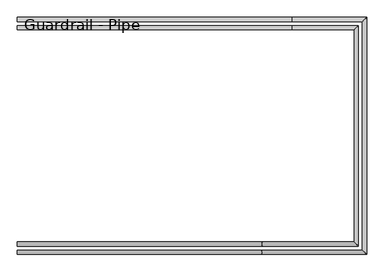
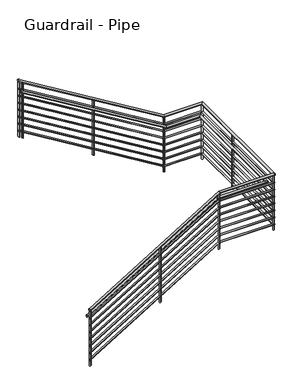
"""IFC4 building model written with IfcOpenShell, lengths in millimetres: railing geometry, Guardrail - Pipe."""

from ifc_helpers import new_model, si_unit, point, frame, frame_2d, origin, place, context, project, spatial, circle_curve, ellipse_curve, trimmed, segment, composite_curve, outline, extrude, source, transform, mapped, element, save
from ifc_brep_helpers import plane_surface, cylinder_surface, advanced_brep


def guardrail_pipe_ca991ecf(model_context):
    return source(origin(), model_context, "Body", "SolidModel", [
        advanced_brep(
        [(-2909.3516552, 8373.427236, 1214.5008594), (-2909.3516552, 8335.327236, 1214.5008594), (-668.811597, 8373.427236, 2577.75), (-668.811597, 8335.327236, 2577.75), (246.5983448, 8373.427236, 2577.75), (284.6983448, 8335.327236, 2577.75), (246.5983448, 10468.927236, 2577.75), (284.6983448, 10507.027236, 2577.75), (-400.0917134, 10468.927236, 2577.75), (-400.0917134, 10507.027236, 2577.75), (-2909.3516552, 10468.927236, 4104.5008594), (-2909.3516552, 10507.027236, 4104.5008594)],
        [
            (0, 1, ellipse_curve(frame((-2909.3516552, 8354.377236, 1214.5008594), z_axis=(-1.0, 0.0, 0.0), x_axis=(0.0, 0.0, -1.0)), 22.2991406, 19.05)),
            (1, 0, ellipse_curve(frame((-2909.3516552, 8354.377236, 1214.5008594), z_axis=(-1.0, 0.0, 0.0), x_axis=(0.0, 0.0, -1.0)), 22.2991406, 19.05)),
            (0, 2),
            (2, 3, ellipse_curve(frame((-668.811597, 8354.377236, 2577.75), z_axis=(-0.9628844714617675, 0.0, -0.2699138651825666), x_axis=(0.2699138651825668, 0.0, -0.9628844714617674)), 19.7843049, 19.05)),
            (3, 1),
            (3, 2, ellipse_curve(frame((-668.811597, 8354.377236, 2577.75), z_axis=(-0.9628844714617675, 0.0, -0.2699138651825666), x_axis=(0.2699138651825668, 0.0, -0.9628844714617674)), 19.7843049, 19.05)),
            (2, 4),
            (4, 5, ellipse_curve(frame((265.6483448, 8354.377236, 2577.75), z_axis=(-0.7071067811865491, -0.7071067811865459, 0.0), x_axis=(-0.7071067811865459, 0.7071067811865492, 0.0)), 26.9407684, 19.05)),
            (5, 3),
            (5, 4, ellipse_curve(frame((265.6483448, 8354.377236, 2577.75), z_axis=(-0.7071067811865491, -0.7071067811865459, 0.0), x_axis=(-0.7071067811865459, 0.7071067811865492, 0.0)), 26.9407684, 19.05)),
            (4, 6),
            (6, 7, ellipse_curve(frame((265.6483448, 10487.977236, 2577.75), z_axis=(0.7071067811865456, -0.7071067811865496, 0.0), x_axis=(-0.7071067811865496, -0.7071067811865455, 0.0)), 26.9407684, 19.05)),
            (7, 5),
            (7, 6, ellipse_curve(frame((265.6483448, 10487.977236, 2577.75), z_axis=(0.7071067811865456, -0.7071067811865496, 0.0), x_axis=(-0.7071067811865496, -0.7071067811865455, 0.0)), 26.9407684, 19.05)),
            (6, 8),
            (8, 9, ellipse_curve(frame((-400.0917134, 10487.977236, 2577.75), z_axis=(0.9628844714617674, 0.0, -0.2699138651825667), x_axis=(0.26991386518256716, 0.0, 0.9628844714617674)), 19.7843049, 19.05)),
            (9, 7),
            (9, 8, ellipse_curve(frame((-400.0917134, 10487.977236, 2577.75), z_axis=(0.9628844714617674, 0.0, -0.2699138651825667), x_axis=(0.26991386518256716, 0.0, 0.9628844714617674)), 19.7843049, 19.05)),
            (10, 11, ellipse_curve(frame((-2909.3516552, 10487.977236, 4104.5008594), z_axis=(-1.0, 0.0, 0.0), x_axis=(0.0, 0.0, -1.0)), 22.2991406, 19.05)),
            (11, 10, ellipse_curve(frame((-2909.3516552, 10487.977236, 4104.5008594), z_axis=(-1.0, 0.0, 0.0), x_axis=(0.0, 0.0, -1.0)), 22.2991406, 19.05)),
            (8, 10),
            (11, 9),
        ],
        [
            plane_surface(frame((-2909.3516552, 8354.377236, 1236.8), z_axis=(-1.0, 0.0, 0.0), x_axis=(0.0, 1.0, 0.0))),
            cylinder_surface(frame((-2899.4496225, 8354.377236, 1220.5257181), z_axis=(-0.8542930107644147, 0.0, -0.5197917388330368), x_axis=(0.0, -1.0, 0.0)), 19.05),
            cylinder_surface(frame((-674.1516552, 8354.377236, 2577.75), z_axis=(-1.0, 0.0, 0.0), x_axis=(0.0, -1.0, 0.0)), 19.05),
            cylinder_surface(frame((265.6483448, 8354.377236, 2577.75), z_axis=(0.0, -1.0, 0.0), x_axis=(1.0, 0.0, 0.0)), 19.05),
            cylinder_surface(frame((265.6483448, 10487.977236, 2577.75), z_axis=(1.0, 0.0, 0.0), x_axis=(0.0, 1.0, 0.0)), 19.05),
            plane_surface(frame((-2909.3516552, 10487.977236, 4126.8), z_axis=(-1.0, 0.0, 0.0), x_axis=(0.0, -1.0, 0.0))),
            cylinder_surface(frame((-404.6536878, 10487.977236, 2580.5257181), z_axis=(0.8542930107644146, 0.0, -0.519791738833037), x_axis=(0.0, 1.0, 0.0)), 19.05),
        ],
        [
            (0, [[1, 2]]),
            (1, [[-1, 3, 4, 5]]),
            (1, [[-2, -5, 6, -3]]),
            (2, [[-4, 7, 8, 9]]),
            (2, [[-6, -9, 10, -7]]),
            (3, [[-8, 11, 12, 13]]),
            (3, [[-10, -13, 14, -11]]),
            (4, [[-12, 15, 16, 17]]),
            (4, [[-14, -17, 18, -15]]),
            (5, [[19, 20]]),
            (6, [[-16, 21, -20, 22]]),
            (6, [[-18, -22, -19, -21]]),
        ],
    ),
        advanced_brep(
        [(-2909.3516552, 8367.077236, 1069.5339062), (-2909.3516552, 8341.677236, 1069.5339062), (-670.5916164, 8367.077236, 2431.7), (-670.5916164, 8341.677236, 2431.7), (252.9483448, 8367.077236, 2431.7), (278.3483448, 8341.677236, 2431.7), (252.9483448, 10475.277236, 2431.7), (278.3483448, 10500.677236, 2431.7), (-398.311694, 10475.277236, 2431.7), (-398.311694, 10500.677236, 2431.7), (-2909.3516552, 10475.277236, 3959.5339062), (-2909.3516552, 10500.677236, 3959.5339062)],
        [
            (0, 1, ellipse_curve(frame((-2909.3516552, 8354.377236, 1069.5339062), z_axis=(-1.0, 0.0, 0.0), x_axis=(0.0, 0.0, -1.0)), 14.8660938, 12.7)),
            (1, 0, ellipse_curve(frame((-2909.3516552, 8354.377236, 1069.5339062), z_axis=(-1.0, 0.0, 0.0), x_axis=(0.0, 0.0, -1.0)), 14.8660938, 12.7)),
            (0, 2),
            (2, 3, ellipse_curve(frame((-670.5916164, 8354.377236, 2431.7), z_axis=(-0.9628844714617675, 0.0, -0.2699138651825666), x_axis=(0.2699138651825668, 0.0, -0.9628844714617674)), 13.1895366, 12.7)),
            (3, 1),
            (3, 2, ellipse_curve(frame((-670.5916164, 8354.377236, 2431.7), z_axis=(-0.9628844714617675, 0.0, -0.2699138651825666), x_axis=(0.2699138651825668, 0.0, -0.9628844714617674)), 13.1895366, 12.7)),
            (2, 4),
            (4, 5, ellipse_curve(frame((265.6483448, 8354.377236, 2431.7), z_axis=(-0.7071067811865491, -0.7071067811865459, 0.0), x_axis=(-0.7071067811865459, 0.7071067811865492, 0.0)), 17.9605122, 12.7)),
            (5, 3),
            (5, 4, ellipse_curve(frame((265.6483448, 8354.377236, 2431.7), z_axis=(-0.7071067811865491, -0.7071067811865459, 0.0), x_axis=(-0.7071067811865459, 0.7071067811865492, 0.0)), 17.9605122, 12.7)),
            (4, 6),
            (6, 7, ellipse_curve(frame((265.6483448, 10487.977236, 2431.7), z_axis=(0.7071067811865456, -0.7071067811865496, 0.0), x_axis=(-0.7071067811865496, -0.7071067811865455, 0.0)), 17.9605122, 12.7)),
            (7, 5),
            (7, 6, ellipse_curve(frame((265.6483448, 10487.977236, 2431.7), z_axis=(0.7071067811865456, -0.7071067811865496, 0.0), x_axis=(-0.7071067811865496, -0.7071067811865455, 0.0)), 17.9605122, 12.7)),
            (6, 8),
            (8, 9, ellipse_curve(frame((-398.311694, 10487.977236, 2431.7), z_axis=(0.9628844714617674, 0.0, -0.2699138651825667), x_axis=(0.26991386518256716, 0.0, 0.9628844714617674)), 13.1895366, 12.7)),
            (9, 7),
            (9, 8, ellipse_curve(frame((-398.311694, 10487.977236, 2431.7), z_axis=(0.9628844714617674, 0.0, -0.2699138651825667), x_axis=(0.26991386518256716, 0.0, 0.9628844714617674)), 13.1895366, 12.7)),
            (10, 11, ellipse_curve(frame((-2909.3516552, 10487.977236, 3959.5339062), z_axis=(-1.0, 0.0, 0.0), x_axis=(0.0, 0.0, -1.0)), 14.8660938, 12.7)),
            (11, 10, ellipse_curve(frame((-2909.3516552, 10487.977236, 3959.5339062), z_axis=(-1.0, 0.0, 0.0), x_axis=(0.0, 0.0, -1.0)), 14.8660938, 12.7)),
            (8, 10),
            (11, 9),
        ],
        [
            plane_surface(frame((-2909.3516552, 8354.377236, 1084.4), z_axis=(-1.0, 0.0, 0.0), x_axis=(0.0, 1.0, 0.0))),
            cylinder_surface(frame((-2902.7503001, 8354.377236, 1073.5504788), z_axis=(-0.8542930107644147, 0.0, -0.5197917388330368), x_axis=(0.0, -1.0, 0.0)), 12.7),
            cylinder_surface(frame((-674.1516552, 8354.377236, 2431.7), z_axis=(-1.0, 0.0, 0.0), x_axis=(0.0, -1.0, 0.0)), 12.7),
            cylinder_surface(frame((265.6483448, 8354.377236, 2431.7), z_axis=(0.0, -1.0, 0.0), x_axis=(1.0, 0.0, 0.0)), 12.7),
            cylinder_surface(frame((265.6483448, 10487.977236, 2431.7), z_axis=(1.0, 0.0, 0.0), x_axis=(0.0, 1.0, 0.0)), 12.7),
            plane_surface(frame((-2909.3516552, 10487.977236, 3974.4), z_axis=(-1.0, 0.0, 0.0), x_axis=(0.0, -1.0, 0.0))),
            cylinder_surface(frame((-401.3530103, 10487.977236, 2433.5504788), z_axis=(0.8542930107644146, 0.0, -0.519791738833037), x_axis=(0.0, 1.0, 0.0)), 12.7),
        ],
        [
            (0, [[1, 2]]),
            (1, [[-1, 3, 4, 5]]),
            (1, [[-2, -5, 6, -3]]),
            (2, [[-4, 7, 8, 9]]),
            (2, [[-6, -9, 10, -7]]),
            (3, [[-8, 11, 12, 13]]),
            (3, [[-10, -13, 14, -11]]),
            (4, [[-12, 15, 16, 17]]),
            (4, [[-14, -17, 18, -15]]),
            (5, [[19, 20]]),
            (6, [[-16, 21, -20, 22]]),
            (6, [[-18, -22, -19, -21]]),
        ],
    ),
        advanced_brep(
        [(-2909.3516552, 8449.627236, 1062.1008594), (-2909.3516552, 8411.527236, 1062.1008594), (-668.811597, 8449.627236, 2425.35), (-668.811597, 8411.527236, 2425.35), (170.3983448, 8449.627236, 2425.35), (208.4983448, 8411.527236, 2425.35), (170.3983448, 10392.727236, 2425.35), (208.4983448, 10430.827236, 2425.35), (-400.0917134, 10392.727236, 2425.35), (-400.0917134, 10430.827236, 2425.35), (-2909.3516552, 10392.727236, 3952.1008594), (-2909.3516552, 10430.827236, 3952.1008594)],
        [
            (0, 1, ellipse_curve(frame((-2909.3516552, 8430.577236, 1062.1008594), z_axis=(-1.0, 0.0, 0.0), x_axis=(0.0, 0.0, -1.0)), 22.2991406, 19.05)),
            (1, 0, ellipse_curve(frame((-2909.3516552, 8430.577236, 1062.1008594), z_axis=(-1.0, 0.0, 0.0), x_axis=(0.0, 0.0, -1.0)), 22.2991406, 19.05)),
            (0, 2),
            (2, 3, ellipse_curve(frame((-668.811597, 8430.577236, 2425.35), z_axis=(-0.9628844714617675, 0.0, -0.2699138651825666), x_axis=(0.2699138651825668, 0.0, -0.9628844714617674)), 19.7843049, 19.05)),
            (3, 1),
            (3, 2, ellipse_curve(frame((-668.811597, 8430.577236, 2425.35), z_axis=(-0.9628844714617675, 0.0, -0.2699138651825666), x_axis=(0.2699138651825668, 0.0, -0.9628844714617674)), 19.7843049, 19.05)),
            (2, 4),
            (4, 5, ellipse_curve(frame((189.4483448, 8430.577236, 2425.35), z_axis=(-0.7071067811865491, -0.7071067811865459, 0.0), x_axis=(-0.7071067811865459, 0.7071067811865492, 0.0)), 26.9407684, 19.05)),
            (5, 3),
            (5, 4, ellipse_curve(frame((189.4483448, 8430.577236, 2425.35), z_axis=(-0.7071067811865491, -0.7071067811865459, 0.0), x_axis=(-0.7071067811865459, 0.7071067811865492, 0.0)), 26.9407684, 19.05)),
            (4, 6),
            (6, 7, ellipse_curve(frame((189.4483448, 10411.777236, 2425.35), z_axis=(0.7071067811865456, -0.7071067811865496, 0.0), x_axis=(-0.7071067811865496, -0.7071067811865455, 0.0)), 26.9407684, 19.05)),
            (7, 5),
            (7, 6, ellipse_curve(frame((189.4483448, 10411.777236, 2425.35), z_axis=(0.7071067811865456, -0.7071067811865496, 0.0), x_axis=(-0.7071067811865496, -0.7071067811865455, 0.0)), 26.9407684, 19.05)),
            (6, 8),
            (8, 9, ellipse_curve(frame((-400.0917134, 10411.777236, 2425.35), z_axis=(0.9628844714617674, 0.0, -0.26991386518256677), x_axis=(0.2699138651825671, 0.0, 0.9628844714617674)), 19.7843049, 19.05)),
            (9, 7),
            (9, 8, ellipse_curve(frame((-400.0917134, 10411.777236, 2425.35), z_axis=(0.9628844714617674, 0.0, -0.26991386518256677), x_axis=(0.2699138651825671, 0.0, 0.9628844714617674)), 19.7843049, 19.05)),
            (10, 11, ellipse_curve(frame((-2909.3516552, 10411.777236, 3952.1008594), z_axis=(-1.0, 0.0, 0.0), x_axis=(0.0, 0.0, -1.0)), 22.2991406, 19.05)),
            (11, 10, ellipse_curve(frame((-2909.3516552, 10411.777236, 3952.1008594), z_axis=(-1.0, 0.0, 0.0), x_axis=(0.0, 0.0, -1.0)), 22.2991406, 19.05)),
            (8, 10),
            (11, 9),
        ],
        [
            plane_surface(frame((-2909.3516552, 8430.577236, 1084.4), z_axis=(-1.0, 0.0, 0.0), x_axis=(0.0, 1.0, 0.0))),
            cylinder_surface(frame((-2899.4496225, 8430.577236, 1068.1257181), z_axis=(-0.8542930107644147, 0.0, -0.5197917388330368), x_axis=(0.0, -1.0, 0.0)), 19.05),
            cylinder_surface(frame((-674.1516552, 8430.577236, 2425.35), z_axis=(-1.0, 0.0, 0.0), x_axis=(0.0, -1.0, 0.0)), 19.05),
            cylinder_surface(frame((189.4483448, 8430.577236, 2425.35), z_axis=(0.0, -1.0, 0.0), x_axis=(1.0, 0.0, 0.0)), 19.05),
            cylinder_surface(frame((189.4483448, 10411.777236, 2425.35), z_axis=(1.0, 0.0, 0.0), x_axis=(0.0, 1.0, 0.0)), 19.05),
            plane_surface(frame((-2909.3516552, 10411.777236, 3974.4), z_axis=(-1.0, 0.0, 0.0), x_axis=(0.0, -1.0, 0.0))),
            cylinder_surface(frame((-404.6536878, 10411.777236, 2428.1257181), z_axis=(0.8542930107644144, 0.0, -0.5197917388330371), x_axis=(0.0, 1.0, 0.0)), 19.05),
        ],
        [
            (0, [[1, 2]]),
            (1, [[-1, 3, 4, 5]]),
            (1, [[-2, -5, 6, -3]]),
            (2, [[-4, 7, 8, 9]]),
            (2, [[-6, -9, 10, -7]]),
            (3, [[-8, 11, 12, 13]]),
            (3, [[-10, -13, 14, -11]]),
            (4, [[-12, 15, 16, 17]]),
            (4, [[-14, -17, 18, -15]]),
            (5, [[19, 20]]),
            (6, [[-16, 21, -20, 22]]),
            (6, [[-18, -22, -19, -21]]),
        ],
    ),
        advanced_brep(
        [(-2909.3516552, 8367.077236, 942.5339062), (-2909.3516552, 8341.677236, 942.5339062), (-670.5916164, 8367.077236, 2304.7), (-670.5916164, 8341.677236, 2304.7), (252.9483448, 8367.077236, 2304.7), (278.3483448, 8341.677236, 2304.7), (252.9483448, 10475.277236, 2304.7), (278.3483448, 10500.677236, 2304.7), (-398.311694, 10475.277236, 2304.7), (-398.311694, 10500.677236, 2304.7), (-2909.3516552, 10475.277236, 3832.5339062), (-2909.3516552, 10500.677236, 3832.5339062)],
        [
            (0, 1, ellipse_curve(frame((-2909.3516552, 8354.377236, 942.5339062), z_axis=(-1.0, 0.0, 0.0), x_axis=(0.0, 0.0, -1.0)), 14.8660938, 12.7)),
            (1, 0, ellipse_curve(frame((-2909.3516552, 8354.377236, 942.5339062), z_axis=(-1.0, 0.0, 0.0), x_axis=(0.0, 0.0, -1.0)), 14.8660938, 12.7)),
            (0, 2),
            (2, 3, ellipse_curve(frame((-670.5916164, 8354.377236, 2304.7), z_axis=(-0.9628844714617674, 0.0, -0.26991386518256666), x_axis=(0.2699138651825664, 0.0, -0.9628844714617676)), 13.1895366, 12.7)),
            (3, 1),
            (3, 2, ellipse_curve(frame((-670.5916164, 8354.377236, 2304.7), z_axis=(-0.9628844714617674, 0.0, -0.26991386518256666), x_axis=(0.2699138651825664, 0.0, -0.9628844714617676)), 13.1895366, 12.7)),
            (2, 4),
            (4, 5, ellipse_curve(frame((265.6483448, 8354.377236, 2304.7), z_axis=(-0.7071067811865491, -0.7071067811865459, 0.0), x_axis=(-0.7071067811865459, 0.7071067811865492, 0.0)), 17.9605122, 12.7)),
            (5, 3),
            (5, 4, ellipse_curve(frame((265.6483448, 8354.377236, 2304.7), z_axis=(-0.7071067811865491, -0.7071067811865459, 0.0), x_axis=(-0.7071067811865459, 0.7071067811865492, 0.0)), 17.9605122, 12.7)),
            (4, 6),
            (6, 7, ellipse_curve(frame((265.6483448, 10487.977236, 2304.7), z_axis=(0.7071067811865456, -0.7071067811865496, 0.0), x_axis=(-0.7071067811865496, -0.7071067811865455, 0.0)), 17.9605122, 12.7)),
            (7, 5),
            (7, 6, ellipse_curve(frame((265.6483448, 10487.977236, 2304.7), z_axis=(0.7071067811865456, -0.7071067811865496, 0.0), x_axis=(-0.7071067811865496, -0.7071067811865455, 0.0)), 17.9605122, 12.7)),
            (6, 8),
            (8, 9, ellipse_curve(frame((-398.311694, 10487.977236, 2304.7), z_axis=(0.9628844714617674, 0.0, -0.2699138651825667), x_axis=(0.2699138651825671, 0.0, 0.9628844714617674)), 13.1895366, 12.7)),
            (9, 7),
            (9, 8, ellipse_curve(frame((-398.311694, 10487.977236, 2304.7), z_axis=(0.9628844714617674, 0.0, -0.2699138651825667), x_axis=(0.2699138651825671, 0.0, 0.9628844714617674)), 13.1895366, 12.7)),
            (10, 11, ellipse_curve(frame((-2909.3516552, 10487.977236, 3832.5339062), z_axis=(-1.0, 0.0, 0.0), x_axis=(0.0, 0.0, -1.0)), 14.8660938, 12.7)),
            (11, 10, ellipse_curve(frame((-2909.3516552, 10487.977236, 3832.5339062), z_axis=(-1.0, 0.0, 0.0), x_axis=(0.0, 0.0, -1.0)), 14.8660938, 12.7)),
            (8, 10),
            (11, 9),
        ],
        [
            plane_surface(frame((-2909.3516552, 8354.377236, 957.4), z_axis=(-1.0, 0.0, 0.0), x_axis=(0.0, 1.0, 0.0))),
            cylinder_surface(frame((-2902.7503001, 8354.377236, 946.5504788), z_axis=(-0.8542930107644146, 0.0, -0.5197917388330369), x_axis=(0.0, -1.0, 0.0)), 12.7),
            cylinder_surface(frame((-674.1516552, 8354.377236, 2304.7), z_axis=(-1.0, 0.0, 0.0), x_axis=(0.0, -1.0, 0.0)), 12.7),
            cylinder_surface(frame((265.6483448, 8354.377236, 2304.7), z_axis=(0.0, -1.0, 0.0), x_axis=(1.0, 0.0, 0.0)), 12.7),
            cylinder_surface(frame((265.6483448, 10487.977236, 2304.7), z_axis=(1.0, 0.0, 0.0), x_axis=(0.0, 1.0, 0.0)), 12.7),
            plane_surface(frame((-2909.3516552, 10487.977236, 3847.4), z_axis=(-1.0, 0.0, 0.0), x_axis=(0.0, -1.0, 0.0))),
            cylinder_surface(frame((-401.3530103, 10487.977236, 2306.5504788), z_axis=(0.8542930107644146, 0.0, -0.519791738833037), x_axis=(0.0, 1.0, 0.0)), 12.7),
        ],
        [
            (0, [[1, 2]]),
            (1, [[-1, 3, 4, 5]]),
            (1, [[-2, -5, 6, -3]]),
            (2, [[-4, 7, 8, 9]]),
            (2, [[-6, -9, 10, -7]]),
            (3, [[-8, 11, 12, 13]]),
            (3, [[-10, -13, 14, -11]]),
            (4, [[-12, 15, 16, 17]]),
            (4, [[-14, -17, 18, -15]]),
            (5, [[19, 20]]),
            (6, [[-16, 21, -20, 22]]),
            (6, [[-18, -22, -19, -21]]),
        ],
    ),
        advanced_brep(
        [(-2909.3516552, 8367.077236, 815.5339062), (-2909.3516552, 8341.677236, 815.5339062), (-670.5916164, 8367.077236, 2177.7), (-670.5916164, 8341.677236, 2177.7), (252.9483448, 8367.077236, 2177.7), (278.3483448, 8341.677236, 2177.7), (252.9483448, 10475.277236, 2177.7), (278.3483448, 10500.677236, 2177.7), (-398.311694, 10475.277236, 2177.7), (-398.311694, 10500.677236, 2177.7), (-2909.3516552, 10475.277236, 3705.5339062), (-2909.3516552, 10500.677236, 3705.5339062)],
        [
            (0, 1, ellipse_curve(frame((-2909.3516552, 8354.377236, 815.5339062), z_axis=(-1.0, 0.0, 0.0), x_axis=(0.0, 0.0, -1.0)), 14.8660938, 12.7)),
            (1, 0, ellipse_curve(frame((-2909.3516552, 8354.377236, 815.5339062), z_axis=(-1.0, 0.0, 0.0), x_axis=(0.0, 0.0, -1.0)), 14.8660938, 12.7)),
            (0, 2),
            (2, 3, ellipse_curve(frame((-670.5916164, 8354.377236, 2177.7), z_axis=(-0.9628844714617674, 0.0, -0.2699138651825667), x_axis=(0.26991386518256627, 0.0, -0.9628844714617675)), 13.1895366, 12.7)),
            (3, 1),
            (3, 2, ellipse_curve(frame((-670.5916164, 8354.377236, 2177.7), z_axis=(-0.9628844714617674, 0.0, -0.2699138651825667), x_axis=(0.26991386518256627, 0.0, -0.9628844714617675)), 13.1895366, 12.7)),
            (2, 4),
            (4, 5, ellipse_curve(frame((265.6483448, 8354.377236, 2177.7), z_axis=(-0.7071067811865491, -0.7071067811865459, 0.0), x_axis=(-0.7071067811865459, 0.7071067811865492, 0.0)), 17.9605122, 12.7)),
            (5, 3),
            (5, 4, ellipse_curve(frame((265.6483448, 8354.377236, 2177.7), z_axis=(-0.7071067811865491, -0.7071067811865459, 0.0), x_axis=(-0.7071067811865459, 0.7071067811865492, 0.0)), 17.9605122, 12.7)),
            (4, 6),
            (6, 7, ellipse_curve(frame((265.6483448, 10487.977236, 2177.7), z_axis=(0.7071067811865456, -0.7071067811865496, 0.0), x_axis=(-0.7071067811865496, -0.7071067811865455, 0.0)), 17.9605122, 12.7)),
            (7, 5),
            (7, 6, ellipse_curve(frame((265.6483448, 10487.977236, 2177.7), z_axis=(0.7071067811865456, -0.7071067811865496, 0.0), x_axis=(-0.7071067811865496, -0.7071067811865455, 0.0)), 17.9605122, 12.7)),
            (6, 8),
            (8, 9, ellipse_curve(frame((-398.311694, 10487.977236, 2177.7), z_axis=(0.9628844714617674, 0.0, -0.2699138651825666), x_axis=(0.2699138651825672, 0.0, 0.9628844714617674)), 13.1895366, 12.7)),
            (9, 7),
            (9, 8, ellipse_curve(frame((-398.311694, 10487.977236, 2177.7), z_axis=(0.9628844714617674, 0.0, -0.2699138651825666), x_axis=(0.2699138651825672, 0.0, 0.9628844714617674)), 13.1895366, 12.7)),
            (10, 11, ellipse_curve(frame((-2909.3516552, 10487.977236, 3705.5339062), z_axis=(-1.0, 0.0, 0.0), x_axis=(0.0, 0.0, -1.0)), 14.8660938, 12.7)),
            (11, 10, ellipse_curve(frame((-2909.3516552, 10487.977236, 3705.5339062), z_axis=(-1.0, 0.0, 0.0), x_axis=(0.0, 0.0, -1.0)), 14.8660938, 12.7)),
            (8, 10),
            (11, 9),
        ],
        [
            plane_surface(frame((-2909.3516552, 8354.377236, 830.4), z_axis=(-1.0, 0.0, 0.0), x_axis=(0.0, 1.0, 0.0))),
            cylinder_surface(frame((-2902.7503001, 8354.377236, 819.5504788), z_axis=(-0.8542930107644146, 0.0, -0.519791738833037), x_axis=(0.0, -1.0, 0.0)), 12.7),
            cylinder_surface(frame((-674.1516552, 8354.377236, 2177.7), z_axis=(-1.0, 0.0, 0.0), x_axis=(0.0, -1.0, 0.0)), 12.7),
            cylinder_surface(frame((265.6483448, 8354.377236, 2177.7), z_axis=(0.0, -1.0, 0.0), x_axis=(1.0, 0.0, 0.0)), 12.7),
            cylinder_surface(frame((265.6483448, 10487.977236, 2177.7), z_axis=(1.0, 0.0, 0.0), x_axis=(0.0, 1.0, 0.0)), 12.7),
            plane_surface(frame((-2909.3516552, 10487.977236, 3720.4), z_axis=(-1.0, 0.0, 0.0), x_axis=(0.0, -1.0, 0.0))),
            cylinder_surface(frame((-401.3530103, 10487.977236, 2179.5504788), z_axis=(0.8542930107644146, 0.0, -0.5197917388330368), x_axis=(0.0, 1.0, 0.0)), 12.7),
        ],
        [
            (0, [[1, 2]]),
            (1, [[-1, 3, 4, 5]]),
            (1, [[-2, -5, 6, -3]]),
            (2, [[-4, 7, 8, 9]]),
            (2, [[-6, -9, 10, -7]]),
            (3, [[-8, 11, 12, 13]]),
            (3, [[-10, -13, 14, -11]]),
            (4, [[-12, 15, 16, 17]]),
            (4, [[-14, -17, 18, -15]]),
            (5, [[19, 20]]),
            (6, [[-16, 21, -20, 22]]),
            (6, [[-18, -22, -19, -21]]),
        ],
    ),
        advanced_brep(
        [(-2909.3516552, 8367.077236, 688.5339062), (-2909.3516552, 8341.677236, 688.5339062), (-670.5916164, 8367.077236, 2050.7), (-670.5916164, 8341.677236, 2050.7), (252.9483448, 8367.077236, 2050.7), (278.3483448, 8341.677236, 2050.7), (252.9483448, 10475.277236, 2050.7), (278.3483448, 10500.677236, 2050.7), (-398.311694, 10475.277236, 2050.7), (-398.311694, 10500.677236, 2050.7), (-2909.3516552, 10475.277236, 3578.5339062), (-2909.3516552, 10500.677236, 3578.5339062)],
        [
            (0, 1, ellipse_curve(frame((-2909.3516552, 8354.377236, 688.5339062), z_axis=(-1.0, 0.0, 0.0), x_axis=(0.0, 0.0, -1.0)), 14.8660938, 12.7)),
            (1, 0, ellipse_curve(frame((-2909.3516552, 8354.377236, 688.5339062), z_axis=(-1.0, 0.0, 0.0), x_axis=(0.0, 0.0, -1.0)), 14.8660938, 12.7)),
            (0, 2),
            (2, 3, ellipse_curve(frame((-670.5916164, 8354.377236, 2050.7), z_axis=(-0.9628844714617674, 0.0, -0.26991386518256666), x_axis=(0.2699138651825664, 0.0, -0.9628844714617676)), 13.1895366, 12.7)),
            (3, 1),
            (3, 2, ellipse_curve(frame((-670.5916164, 8354.377236, 2050.7), z_axis=(-0.9628844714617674, 0.0, -0.26991386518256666), x_axis=(0.2699138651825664, 0.0, -0.9628844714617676)), 13.1895366, 12.7)),
            (2, 4),
            (4, 5, ellipse_curve(frame((265.6483448, 8354.377236, 2050.7), z_axis=(-0.7071067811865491, -0.7071067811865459, 0.0), x_axis=(-0.7071067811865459, 0.7071067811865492, 0.0)), 17.9605122, 12.7)),
            (5, 3),
            (5, 4, ellipse_curve(frame((265.6483448, 8354.377236, 2050.7), z_axis=(-0.7071067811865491, -0.7071067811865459, 0.0), x_axis=(-0.7071067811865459, 0.7071067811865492, 0.0)), 17.9605122, 12.7)),
            (4, 6),
            (6, 7, ellipse_curve(frame((265.6483448, 10487.977236, 2050.7), z_axis=(0.7071067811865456, -0.7071067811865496, 0.0), x_axis=(-0.7071067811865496, -0.7071067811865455, 0.0)), 17.9605122, 12.7)),
            (7, 5),
            (7, 6, ellipse_curve(frame((265.6483448, 10487.977236, 2050.7), z_axis=(0.7071067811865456, -0.7071067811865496, 0.0), x_axis=(-0.7071067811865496, -0.7071067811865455, 0.0)), 17.9605122, 12.7)),
            (6, 8),
            (8, 9, ellipse_curve(frame((-398.311694, 10487.977236, 2050.7), z_axis=(0.9628844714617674, 0.0, -0.2699138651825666), x_axis=(0.2699138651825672, 0.0, 0.9628844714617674)), 13.1895366, 12.7)),
            (9, 7),
            (9, 8, ellipse_curve(frame((-398.311694, 10487.977236, 2050.7), z_axis=(0.9628844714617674, 0.0, -0.2699138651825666), x_axis=(0.2699138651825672, 0.0, 0.9628844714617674)), 13.1895366, 12.7)),
            (10, 11, ellipse_curve(frame((-2909.3516552, 10487.977236, 3578.5339062), z_axis=(-1.0, 0.0, 0.0), x_axis=(0.0, 0.0, -1.0)), 14.8660938, 12.7)),
            (11, 10, ellipse_curve(frame((-2909.3516552, 10487.977236, 3578.5339062), z_axis=(-1.0, 0.0, 0.0), x_axis=(0.0, 0.0, -1.0)), 14.8660938, 12.7)),
            (8, 10),
            (11, 9),
        ],
        [
            plane_surface(frame((-2909.3516552, 8354.377236, 703.4), z_axis=(-1.0, 0.0, 0.0), x_axis=(0.0, 1.0, 0.0))),
            cylinder_surface(frame((-2902.7503001, 8354.377236, 692.5504788), z_axis=(-0.8542930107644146, 0.0, -0.5197917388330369), x_axis=(0.0, -1.0, 0.0)), 12.7),
            cylinder_surface(frame((-674.1516552, 8354.377236, 2050.7), z_axis=(-1.0, 0.0, 0.0), x_axis=(0.0, -1.0, 0.0)), 12.7),
            cylinder_surface(frame((265.6483448, 8354.377236, 2050.7), z_axis=(0.0, -1.0, 0.0), x_axis=(1.0, 0.0, 0.0)), 12.7),
            cylinder_surface(frame((265.6483448, 10487.977236, 2050.7), z_axis=(1.0, 0.0, 0.0), x_axis=(0.0, 1.0, 0.0)), 12.7),
            plane_surface(frame((-2909.3516552, 10487.977236, 3593.4), z_axis=(-1.0, 0.0, 0.0), x_axis=(0.0, -1.0, 0.0))),
            cylinder_surface(frame((-401.3530103, 10487.977236, 2052.5504788), z_axis=(0.8542930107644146, 0.0, -0.5197917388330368), x_axis=(0.0, 1.0, 0.0)), 12.7),
        ],
        [
            (0, [[1, 2]]),
            (1, [[-1, 3, 4, 5]]),
            (1, [[-2, -5, 6, -3]]),
            (2, [[-4, 7, 8, 9]]),
            (2, [[-6, -9, 10, -7]]),
            (3, [[-8, 11, 12, 13]]),
            (3, [[-10, -13, 14, -11]]),
            (4, [[-12, 15, 16, 17]]),
            (4, [[-14, -17, 18, -15]]),
            (5, [[19, 20]]),
            (6, [[-16, 21, -20, 22]]),
            (6, [[-18, -22, -19, -21]]),
        ],
    ),
        advanced_brep(
        [(-2909.3516552, 8367.077236, 561.5339062), (-2909.3516552, 8341.677236, 561.5339062), (-670.5916164, 8367.077236, 1923.7), (-670.5916164, 8341.677236, 1923.7), (252.9483448, 8367.077236, 1923.7), (278.3483448, 8341.677236, 1923.7), (252.9483448, 10475.277236, 1923.7), (278.3483448, 10500.677236, 1923.7), (-398.311694, 10475.277236, 1923.7), (-398.311694, 10500.677236, 1923.7), (-2909.3516552, 10475.277236, 3451.5339062), (-2909.3516552, 10500.677236, 3451.5339062)],
        [
            (0, 1, ellipse_curve(frame((-2909.3516552, 8354.377236, 561.5339062), z_axis=(-1.0, 0.0, 0.0), x_axis=(0.0, 0.0, -1.0)), 14.8660938, 12.7)),
            (1, 0, ellipse_curve(frame((-2909.3516552, 8354.377236, 561.5339062), z_axis=(-1.0, 0.0, 0.0), x_axis=(0.0, 0.0, -1.0)), 14.8660938, 12.7)),
            (0, 2),
            (2, 3, ellipse_curve(frame((-670.5916164, 8354.377236, 1923.7), z_axis=(-0.9628844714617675, 0.0, -0.2699138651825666), x_axis=(0.2699138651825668, 0.0, -0.9628844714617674)), 13.1895366, 12.7)),
            (3, 1),
            (3, 2, ellipse_curve(frame((-670.5916164, 8354.377236, 1923.7), z_axis=(-0.9628844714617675, 0.0, -0.2699138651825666), x_axis=(0.2699138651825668, 0.0, -0.9628844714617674)), 13.1895366, 12.7)),
            (2, 4),
            (4, 5, ellipse_curve(frame((265.6483448, 8354.377236, 1923.7), z_axis=(-0.7071067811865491, -0.7071067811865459, 0.0), x_axis=(-0.7071067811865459, 0.7071067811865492, 0.0)), 17.9605122, 12.7)),
            (5, 3),
            (5, 4, ellipse_curve(frame((265.6483448, 8354.377236, 1923.7), z_axis=(-0.7071067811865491, -0.7071067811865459, 0.0), x_axis=(-0.7071067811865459, 0.7071067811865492, 0.0)), 17.9605122, 12.7)),
            (4, 6),
            (6, 7, ellipse_curve(frame((265.6483448, 10487.977236, 1923.7), z_axis=(0.7071067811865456, -0.7071067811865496, 0.0), x_axis=(-0.7071067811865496, -0.7071067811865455, 0.0)), 17.9605122, 12.7)),
            (7, 5),
            (7, 6, ellipse_curve(frame((265.6483448, 10487.977236, 1923.7), z_axis=(0.7071067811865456, -0.7071067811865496, 0.0), x_axis=(-0.7071067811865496, -0.7071067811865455, 0.0)), 17.9605122, 12.7)),
            (6, 8),
            (8, 9, ellipse_curve(frame((-398.311694, 10487.977236, 1923.7), z_axis=(0.9628844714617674, 0.0, -0.26991386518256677), x_axis=(0.2699138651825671, 0.0, 0.9628844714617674)), 13.1895366, 12.7)),
            (9, 7),
            (9, 8, ellipse_curve(frame((-398.311694, 10487.977236, 1923.7), z_axis=(0.9628844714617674, 0.0, -0.26991386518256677), x_axis=(0.2699138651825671, 0.0, 0.9628844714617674)), 13.1895366, 12.7)),
            (10, 11, ellipse_curve(frame((-2909.3516552, 10487.977236, 3451.5339062), z_axis=(-1.0, 0.0, 0.0), x_axis=(0.0, 0.0, -1.0)), 14.8660938, 12.7)),
            (11, 10, ellipse_curve(frame((-2909.3516552, 10487.977236, 3451.5339062), z_axis=(-1.0, 0.0, 0.0), x_axis=(0.0, 0.0, -1.0)), 14.8660938, 12.7)),
            (8, 10),
            (11, 9),
        ],
        [
            plane_surface(frame((-2909.3516552, 8354.377236, 576.4), z_axis=(-1.0, 0.0, 0.0), x_axis=(0.0, 1.0, 0.0))),
            cylinder_surface(frame((-2902.7503001, 8354.377236, 565.5504788), z_axis=(-0.8542930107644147, 0.0, -0.5197917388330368), x_axis=(0.0, -1.0, 0.0)), 12.7),
            cylinder_surface(frame((-674.1516552, 8354.377236, 1923.7), z_axis=(-1.0, 0.0, 0.0), x_axis=(0.0, -1.0, 0.0)), 12.7),
            cylinder_surface(frame((265.6483448, 8354.377236, 1923.7), z_axis=(0.0, -1.0, 0.0), x_axis=(1.0, 0.0, 0.0)), 12.7),
            cylinder_surface(frame((265.6483448, 10487.977236, 1923.7), z_axis=(1.0, 0.0, 0.0), x_axis=(0.0, 1.0, 0.0)), 12.7),
            plane_surface(frame((-2909.3516552, 10487.977236, 3466.4), z_axis=(-1.0, 0.0, 0.0), x_axis=(0.0, -1.0, 0.0))),
            cylinder_surface(frame((-401.3530103, 10487.977236, 1925.5504788), z_axis=(0.8542930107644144, 0.0, -0.5197917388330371), x_axis=(0.0, 1.0, 0.0)), 12.7),
        ],
        [
            (0, [[1, 2]]),
            (1, [[-1, 3, 4, 5]]),
            (1, [[-2, -5, 6, -3]]),
            (2, [[-4, 7, 8, 9]]),
            (2, [[-6, -9, 10, -7]]),
            (3, [[-8, 11, 12, 13]]),
            (3, [[-10, -13, 14, -11]]),
            (4, [[-12, 15, 16, 17]]),
            (4, [[-14, -17, 18, -15]]),
            (5, [[19, 20]]),
            (6, [[-16, 21, -20, 22]]),
            (6, [[-18, -22, -19, -21]]),
        ],
    ),
        advanced_brep(
        [(-2909.3516552, 8367.077236, 434.5339062), (-2909.3516552, 8341.677236, 434.5339062), (-670.5916164, 8367.077236, 1796.7), (-670.5916164, 8341.677236, 1796.7), (252.9483448, 8367.077236, 1796.7), (278.3483448, 8341.677236, 1796.7), (252.9483448, 10475.277236, 1796.7), (278.3483448, 10500.677236, 1796.7), (-398.311694, 10475.277236, 1796.7), (-398.311694, 10500.677236, 1796.7), (-2909.3516552, 10475.277236, 3324.5339062), (-2909.3516552, 10500.677236, 3324.5339062)],
        [
            (0, 1, ellipse_curve(frame((-2909.3516552, 8354.377236, 434.5339062), z_axis=(-1.0, 0.0, 0.0), x_axis=(0.0, 0.0, -1.0)), 14.8660938, 12.7)),
            (1, 0, ellipse_curve(frame((-2909.3516552, 8354.377236, 434.5339062), z_axis=(-1.0, 0.0, 0.0), x_axis=(0.0, 0.0, -1.0)), 14.8660938, 12.7)),
            (0, 2),
            (2, 3, ellipse_curve(frame((-670.5916164, 8354.377236, 1796.7), z_axis=(-0.9628844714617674, 0.0, -0.26991386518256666), x_axis=(0.2699138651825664, 0.0, -0.9628844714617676)), 13.1895366, 12.7)),
            (3, 1),
            (3, 2, ellipse_curve(frame((-670.5916164, 8354.377236, 1796.7), z_axis=(-0.9628844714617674, 0.0, -0.26991386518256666), x_axis=(0.2699138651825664, 0.0, -0.9628844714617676)), 13.1895366, 12.7)),
            (2, 4),
            (4, 5, ellipse_curve(frame((265.6483448, 8354.377236, 1796.7), z_axis=(-0.7071067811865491, -0.7071067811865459, 0.0), x_axis=(-0.7071067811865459, 0.7071067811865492, 0.0)), 17.9605122, 12.7)),
            (5, 3),
            (5, 4, ellipse_curve(frame((265.6483448, 8354.377236, 1796.7), z_axis=(-0.7071067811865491, -0.7071067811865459, 0.0), x_axis=(-0.7071067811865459, 0.7071067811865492, 0.0)), 17.9605122, 12.7)),
            (4, 6),
            (6, 7, ellipse_curve(frame((265.6483448, 10487.977236, 1796.7), z_axis=(0.7071067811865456, -0.7071067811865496, 0.0), x_axis=(-0.7071067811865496, -0.7071067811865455, 0.0)), 17.9605122, 12.7)),
            (7, 5),
            (7, 6, ellipse_curve(frame((265.6483448, 10487.977236, 1796.7), z_axis=(0.7071067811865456, -0.7071067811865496, 0.0), x_axis=(-0.7071067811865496, -0.7071067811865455, 0.0)), 17.9605122, 12.7)),
            (6, 8),
            (8, 9, ellipse_curve(frame((-398.311694, 10487.977236, 1796.7), z_axis=(0.9628844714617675, 0.0, -0.2699138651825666), x_axis=(0.2699138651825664, 0.0, 0.9628844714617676)), 13.1895366, 12.7)),
            (9, 7),
            (9, 8, ellipse_curve(frame((-398.311694, 10487.977236, 1796.7), z_axis=(0.9628844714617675, 0.0, -0.2699138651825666), x_axis=(0.2699138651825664, 0.0, 0.9628844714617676)), 13.1895366, 12.7)),
            (10, 11, ellipse_curve(frame((-2909.3516552, 10487.977236, 3324.5339062), z_axis=(-1.0, 0.0, 0.0), x_axis=(0.0, 0.0, -1.0)), 14.8660938, 12.7)),
            (11, 10, ellipse_curve(frame((-2909.3516552, 10487.977236, 3324.5339062), z_axis=(-1.0, 0.0, 0.0), x_axis=(0.0, 0.0, -1.0)), 14.8660938, 12.7)),
            (8, 10),
            (11, 9),
        ],
        [
            plane_surface(frame((-2909.3516552, 8354.377236, 449.4), z_axis=(-1.0, 0.0, 0.0), x_axis=(0.0, 1.0, 0.0))),
            cylinder_surface(frame((-2902.7503001, 8354.377236, 438.5504788), z_axis=(-0.8542930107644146, 0.0, -0.5197917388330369), x_axis=(0.0, -1.0, 0.0)), 12.7),
            cylinder_surface(frame((-674.1516552, 8354.377236, 1796.7), z_axis=(-1.0, 0.0, 0.0), x_axis=(0.0, -1.0, 0.0)), 12.7),
            cylinder_surface(frame((265.6483448, 8354.377236, 1796.7), z_axis=(0.0, -1.0, 0.0), x_axis=(1.0, 0.0, 0.0)), 12.7),
            cylinder_surface(frame((265.6483448, 10487.977236, 1796.7), z_axis=(1.0, 0.0, 0.0), x_axis=(0.0, 1.0, 0.0)), 12.7),
            plane_surface(frame((-2909.3516552, 10487.977236, 3339.4), z_axis=(-1.0, 0.0, 0.0), x_axis=(0.0, -1.0, 0.0))),
            cylinder_surface(frame((-401.3530103, 10487.977236, 1798.5504788), z_axis=(0.8542930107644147, 0.0, -0.5197917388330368), x_axis=(0.0, 1.0, 0.0)), 12.7),
        ],
        [
            (0, [[1, 2]]),
            (1, [[-1, 3, 4, 5]]),
            (1, [[-2, -5, 6, -3]]),
            (2, [[-4, 7, 8, 9]]),
            (2, [[-6, -9, 10, -7]]),
            (3, [[-8, 11, 12, 13]]),
            (3, [[-10, -13, 14, -11]]),
            (4, [[-12, 15, 16, 17]]),
            (4, [[-14, -17, 18, -15]]),
            (5, [[19, 20]]),
            (6, [[-16, 21, -20, 22]]),
            (6, [[-18, -22, -19, -21]]),
        ],
    ),
        advanced_brep(
        [(-2909.3516552, 8367.077236, 307.5339062), (-2909.3516552, 8341.677236, 307.5339062), (-670.5916164, 8367.077236, 1669.7), (-670.5916164, 8341.677236, 1669.7), (252.9483448, 8367.077236, 1669.7), (278.3483448, 8341.677236, 1669.7), (252.9483448, 10475.277236, 1669.7), (278.3483448, 10500.677236, 1669.7), (-398.311694, 10475.277236, 1669.7), (-398.311694, 10500.677236, 1669.7), (-2909.3516552, 10475.277236, 3197.5339062), (-2909.3516552, 10500.677236, 3197.5339062)],
        [
            (0, 1, ellipse_curve(frame((-2909.3516552, 8354.377236, 307.5339062), z_axis=(-1.0, 0.0, 0.0), x_axis=(0.0, 0.0, -1.0)), 14.8660938, 12.7)),
            (1, 0, ellipse_curve(frame((-2909.3516552, 8354.377236, 307.5339062), z_axis=(-1.0, 0.0, 0.0), x_axis=(0.0, 0.0, -1.0)), 14.8660938, 12.7)),
            (0, 2),
            (2, 3, ellipse_curve(frame((-670.5916164, 8354.377236, 1669.7), z_axis=(-0.9628844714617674, 0.0, -0.26991386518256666), x_axis=(0.2699138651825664, 0.0, -0.9628844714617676)), 13.1895366, 12.7)),
            (3, 1),
            (3, 2, ellipse_curve(frame((-670.5916164, 8354.377236, 1669.7), z_axis=(-0.9628844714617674, 0.0, -0.26991386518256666), x_axis=(0.2699138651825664, 0.0, -0.9628844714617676)), 13.1895366, 12.7)),
            (2, 4),
            (4, 5, ellipse_curve(frame((265.6483448, 8354.377236, 1669.7), z_axis=(-0.7071067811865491, -0.7071067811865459, 0.0), x_axis=(-0.7071067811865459, 0.7071067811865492, 0.0)), 17.9605122, 12.7)),
            (5, 3),
            (5, 4, ellipse_curve(frame((265.6483448, 8354.377236, 1669.7), z_axis=(-0.7071067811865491, -0.7071067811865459, 0.0), x_axis=(-0.7071067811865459, 0.7071067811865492, 0.0)), 17.9605122, 12.7)),
            (4, 6),
            (6, 7, ellipse_curve(frame((265.6483448, 10487.977236, 1669.7), z_axis=(0.7071067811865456, -0.7071067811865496, 0.0), x_axis=(-0.7071067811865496, -0.7071067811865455, 0.0)), 17.9605122, 12.7)),
            (7, 5),
            (7, 6, ellipse_curve(frame((265.6483448, 10487.977236, 1669.7), z_axis=(0.7071067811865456, -0.7071067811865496, 0.0), x_axis=(-0.7071067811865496, -0.7071067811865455, 0.0)), 17.9605122, 12.7)),
            (6, 8),
            (8, 9, ellipse_curve(frame((-398.311694, 10487.977236, 1669.7), z_axis=(0.9628844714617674, 0.0, -0.2699138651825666), x_axis=(0.2699138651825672, 0.0, 0.9628844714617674)), 13.1895366, 12.7)),
            (9, 7),
            (9, 8, ellipse_curve(frame((-398.311694, 10487.977236, 1669.7), z_axis=(0.9628844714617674, 0.0, -0.2699138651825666), x_axis=(0.2699138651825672, 0.0, 0.9628844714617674)), 13.1895366, 12.7)),
            (10, 11, ellipse_curve(frame((-2909.3516552, 10487.977236, 3197.5339062), z_axis=(-1.0, 0.0, 0.0), x_axis=(0.0, 0.0, -1.0)), 14.8660938, 12.7)),
            (11, 10, ellipse_curve(frame((-2909.3516552, 10487.977236, 3197.5339062), z_axis=(-1.0, 0.0, 0.0), x_axis=(0.0, 0.0, -1.0)), 14.8660938, 12.7)),
            (8, 10),
            (11, 9),
        ],
        [
            plane_surface(frame((-2909.3516552, 8354.377236, 322.4), z_axis=(-1.0, 0.0, 0.0), x_axis=(0.0, 1.0, 0.0))),
            cylinder_surface(frame((-2902.7503001, 8354.377236, 311.5504788), z_axis=(-0.8542930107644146, 0.0, -0.5197917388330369), x_axis=(0.0, -1.0, 0.0)), 12.7),
            cylinder_surface(frame((-674.1516552, 8354.377236, 1669.7), z_axis=(-1.0, 0.0, 0.0), x_axis=(0.0, -1.0, 0.0)), 12.7),
            cylinder_surface(frame((265.6483448, 8354.377236, 1669.7), z_axis=(0.0, -1.0, 0.0), x_axis=(1.0, 0.0, 0.0)), 12.7),
            cylinder_surface(frame((265.6483448, 10487.977236, 1669.7), z_axis=(1.0, 0.0, 0.0), x_axis=(0.0, 1.0, 0.0)), 12.7),
            plane_surface(frame((-2909.3516552, 10487.977236, 3212.4), z_axis=(-1.0, 0.0, 0.0), x_axis=(0.0, -1.0, 0.0))),
            cylinder_surface(frame((-401.3530103, 10487.977236, 1671.5504788), z_axis=(0.8542930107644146, 0.0, -0.5197917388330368), x_axis=(0.0, 1.0, 0.0)), 12.7),
        ],
        [
            (0, [[1, 2]]),
            (1, [[-1, 3, 4, 5]]),
            (1, [[-2, -5, 6, -3]]),
            (2, [[-4, 7, 8, 9]]),
            (2, [[-6, -9, 10, -7]]),
            (3, [[-8, 11, 12, 13]]),
            (3, [[-10, -13, 14, -11]]),
            (4, [[-12, 15, 16, 17]]),
            (4, [[-14, -17, 18, -15]]),
            (5, [[19, 20]]),
            (6, [[-16, 21, -20, 22]]),
            (6, [[-18, -22, -19, -21]]),
        ],
    ),
        advanced_brep(
        [(-2833.1516552, 10500.677236, 4035.8380823), (-2833.1516552, 10500.677236, 3039.8325722), (-2833.1516552, 10475.277236, 3039.8325722), (-2833.1516552, 10475.277236, 4035.8380823)],
        [
            (0, 1),
            (1, 2, ellipse_curve(frame((-2833.1516552, 10487.977236, 3039.8325722), z_axis=(0.5197917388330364, 0.0, 0.8542930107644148), x_axis=(-0.8542930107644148, 0.0, 0.5197917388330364)), 14.8660938, 12.7)),
            (2, 3),
            (3, 0, ellipse_curve(frame((-2833.1516552, 10487.977236, 4035.8380823), z_axis=(-0.5197917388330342, 0.0, -0.8542930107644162), x_axis=(-0.8542930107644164, 0.0, 0.5197917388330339)), 14.8660938, 12.7)),
            (0, 3, ellipse_curve(frame((-2833.1516552, 10487.977236, 4035.8380823), z_axis=(-0.5197917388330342, 0.0, -0.8542930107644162), x_axis=(-0.8542930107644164, 0.0, 0.5197917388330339)), 14.8660938, 12.7)),
            (2, 1, ellipse_curve(frame((-2833.1516552, 10487.977236, 3039.8325722), z_axis=(0.5197917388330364, 0.0, 0.8542930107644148), x_axis=(-0.8542930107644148, 0.0, 0.5197917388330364)), 14.8660938, 12.7)),
        ],
        [
            cylinder_surface(frame((-2833.1516552, 10487.977236, 2811.2325722), z_axis=(0.0, 0.0, 1.0), x_axis=(0.0, -1.0, 0.0)), 12.7),
            plane_surface(frame((-2858.5516552, 10462.577236, 4051.2926278), z_axis=(0.5197917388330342, 0.0, 0.8542930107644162), x_axis=(0.0, 1.0, 0.0))),
            plane_surface(frame((-2807.7516552, 10462.577236, 3024.3780268), z_axis=(-0.5197917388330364, 0.0, -0.8542930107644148), x_axis=(0.0, 1.0, 0.0))),
        ],
        [
            (0, [[1, 2, 3, 4]]),
            (0, [[-1, 5, -3, 6]]),
            (1, [[-4, -5]]),
            (2, [[-2, -6]]),
        ],
    ),
        advanced_brep(
        [(-1613.9516552, 10500.677236, 3294.0199005), (-1613.9516552, 10500.677236, 2298.0143904), (-1613.9516552, 10475.277236, 2298.0143904), (-1613.9516552, 10475.277236, 3294.0199005)],
        [
            (0, 1),
            (1, 2, ellipse_curve(frame((-1613.9516552, 10487.977236, 2298.0143904), z_axis=(0.5197917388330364, 0.0, 0.8542930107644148), x_axis=(-0.8542930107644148, 0.0, 0.5197917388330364)), 14.8660938, 12.7)),
            (2, 3),
            (3, 0, ellipse_curve(frame((-1613.9516552, 10487.977236, 3294.0199005), z_axis=(-0.5197917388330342, 0.0, -0.8542930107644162), x_axis=(-0.8542930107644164, 0.0, 0.5197917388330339)), 14.8660938, 12.7)),
            (0, 3, ellipse_curve(frame((-1613.9516552, 10487.977236, 3294.0199005), z_axis=(-0.5197917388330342, 0.0, -0.8542930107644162), x_axis=(-0.8542930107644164, 0.0, 0.5197917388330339)), 14.8660938, 12.7)),
            (2, 1, ellipse_curve(frame((-1613.9516552, 10487.977236, 2298.0143904), z_axis=(0.5197917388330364, 0.0, 0.8542930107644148), x_axis=(-0.8542930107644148, 0.0, 0.5197917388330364)), 14.8660938, 12.7)),
        ],
        [
            cylinder_surface(frame((-1613.9516552, 10487.977236, 2069.4143904), z_axis=(0.0, 0.0, 1.0), x_axis=(0.0, -1.0, 0.0)), 12.7),
            plane_surface(frame((-1639.3516552, 10462.577236, 3309.474446), z_axis=(0.5197917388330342, 0.0, 0.8542930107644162), x_axis=(0.0, 1.0, 0.0))),
            plane_surface(frame((-1588.5516552, 10462.577236, 2282.5598449), z_axis=(-0.5197917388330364, 0.0, -0.8542930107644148), x_axis=(0.0, 1.0, 0.0))),
        ],
        [
            (0, [[1, 2, 3, 4]]),
            (0, [[-1, 5, -3, 6]]),
            (1, [[-4, -5]]),
            (2, [[-2, -6]]),
        ],
    ),
        extrude(outline(composite_curve([segment(trimmed(circle_curve(frame_2d((265.6483448, 9573.577236)), 12.7), [point((252.9483448, 9573.577236))], [point((278.3483448, 9573.577236))], False, "CARTESIAN"), True, "CONTINUOUS"), segment(trimmed(circle_curve(frame_2d((265.6483448, 9573.577236)), 12.7), [point((278.3483448, 9573.577236))], [point((252.9483448, 9573.577236))], False, "CARTESIAN"), True, "CONTINUOUS")], self_intersect=False)), frame((0.0, 0.0, 1571.275), z_axis=(0.0, 0.0, 1.0), x_axis=(1.0, 0.0, 0.0)), (0.0, 0.0, 1.0), 987.425),
        advanced_brep(
        [(-1690.1516552, 8341.677236, 1934.0199005), (-1690.1516552, 8341.677236, 938.0143904), (-1690.1516552, 8367.077236, 938.0143904), (-1690.1516552, 8367.077236, 1934.0199005)],
        [
            (0, 1),
            (1, 2, ellipse_curve(frame((-1690.1516552, 8354.377236, 938.0143904), z_axis=(-0.5197917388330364, 0.0, 0.8542930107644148), x_axis=(0.8542930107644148, 0.0, 0.5197917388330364)), 14.8660938, 12.7)),
            (2, 3),
            (3, 0, ellipse_curve(frame((-1690.1516552, 8354.377236, 1934.0199005), z_axis=(0.5197917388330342, 0.0, -0.8542930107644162), x_axis=(0.8542930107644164, 0.0, 0.5197917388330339)), 14.8660938, 12.7)),
            (0, 3, ellipse_curve(frame((-1690.1516552, 8354.377236, 1934.0199005), z_axis=(0.5197917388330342, 0.0, -0.8542930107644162), x_axis=(0.8542930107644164, 0.0, 0.5197917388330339)), 14.8660938, 12.7)),
            (2, 1, ellipse_curve(frame((-1690.1516552, 8354.377236, 938.0143904), z_axis=(-0.5197917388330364, 0.0, 0.8542930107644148), x_axis=(0.8542930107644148, 0.0, 0.5197917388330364)), 14.8660938, 12.7)),
        ],
        [
            cylinder_surface(frame((-1690.1516552, 8354.377236, 709.4143904), z_axis=(0.0, 0.0, 1.0), x_axis=(0.0, 1.0, 0.0)), 12.7),
            plane_surface(frame((-1664.7516552, 8379.777236, 1949.474446), z_axis=(-0.5197917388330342, 0.0, 0.8542930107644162), x_axis=(0.0, -1.0, 0.0))),
            plane_surface(frame((-1715.5516552, 8379.777236, 922.5598449), z_axis=(0.5197917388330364, 0.0, -0.8542930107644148), x_axis=(0.0, -1.0, 0.0))),
        ],
        [
            (0, [[1, 2, 3, 4]]),
            (0, [[-1, 5, -3, 6]]),
            (1, [[-4, -5]]),
            (2, [[-2, -6]]),
        ],
    ),
        advanced_brep(
        [(-394.7516552, 10500.677236, 2552.2017187), (-394.7516552, 10500.677236, 1571.275), (-394.7516552, 10475.277236, 1571.275), (-394.7516552, 10475.277236, 2552.2017187)],
        [
            (0, 1),
            (1, 2, circle_curve(frame((-394.7516552, 10487.977236, 1571.275), z_axis=(0.0, 0.0, 1.0), x_axis=(0.0, -1.0, 0.0)), 12.7)),
            (2, 3),
            (3, 0, ellipse_curve(frame((-394.7516552, 10487.977236, 2552.2017187), z_axis=(-0.5197917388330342, 0.0, -0.8542930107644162), x_axis=(-0.8542930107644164, 0.0, 0.5197917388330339)), 14.8660938, 12.7)),
            (0, 3, ellipse_curve(frame((-394.7516552, 10487.977236, 2552.2017187), z_axis=(-0.5197917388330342, 0.0, -0.8542930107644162), x_axis=(-0.8542930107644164, 0.0, 0.5197917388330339)), 14.8660938, 12.7)),
            (2, 1, circle_curve(frame((-394.7516552, 10487.977236, 1571.275), z_axis=(0.0, 0.0, 1.0), x_axis=(0.0, -1.0, 0.0)), 12.7)),
        ],
        [
            cylinder_surface(frame((-394.7516552, 10487.977236, 1342.675), z_axis=(0.0, 0.0, 1.0), x_axis=(0.0, -1.0, 0.0)), 12.7),
            plane_surface(frame((-420.1516552, 10462.577236, 2567.6562642), z_axis=(0.5197917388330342, 0.0, 0.8542930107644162), x_axis=(0.0, 1.0, 0.0))),
            plane_surface(frame((-369.3516552, 10462.577236, 1571.275), z_axis=(0.0, 0.0, -1.0), x_axis=(0.0, 1.0, 0.0))),
        ],
        [
            (0, [[1, 2, 3, 4]]),
            (0, [[-1, 5, -3, 6]]),
            (1, [[-4, -5]]),
            (2, [[-2, -6]]),
        ],
    ),
        extrude(outline(composite_curve([segment(trimmed(circle_curve(frame_2d((265.6483448, 10487.977236)), 12.7), [point((252.9483448, 10487.977236))], [point((278.3483448, 10487.977236))], False, "CARTESIAN"), True, "CONTINUOUS"), segment(trimmed(circle_curve(frame_2d((265.6483448, 10487.977236)), 12.7), [point((278.3483448, 10487.977236))], [point((252.9483448, 10487.977236))], False, "CARTESIAN"), True, "CONTINUOUS")], self_intersect=False)), frame((0.0, 0.0, 1571.275), z_axis=(0.0, 0.0, 1.0), x_axis=(1.0, 0.0, 0.0)), (0.0, 0.0, 1.0), 987.425),
        extrude(outline(composite_curve([segment(trimmed(circle_curve(frame_2d((265.6483448, 8354.377236)), 12.7), [point((265.6483448, 8367.077236))], [point((265.6483448, 8341.677236))], False, "CARTESIAN"), True, "CONTINUOUS"), segment(trimmed(circle_curve(frame_2d((265.6483448, 8354.377236)), 12.7), [point((265.6483448, 8341.677236))], [point((265.6483448, 8367.077236))], False, "CARTESIAN"), True, "CONTINUOUS")], self_intersect=False)), frame((0.0, 0.0, 1571.275), z_axis=(0.0, 0.0, 1.0), x_axis=(1.0, 0.0, 0.0)), (0.0, 0.0, 1.0), 987.425),
        advanced_brep(
        [(-674.1516552, 8341.677236, 2552.2017187), (-674.1516552, 8341.677236, 1556.1962086), (-674.1516552, 8367.077236, 1556.1962086), (-674.1516552, 8367.077236, 2552.2017187)],
        [
            (0, 1),
            (1, 2, ellipse_curve(frame((-674.1516552, 8354.377236, 1556.1962086), z_axis=(-0.5197917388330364, 0.0, 0.8542930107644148), x_axis=(0.8542930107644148, 0.0, 0.5197917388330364)), 14.8660938, 12.7)),
            (2, 3),
            (3, 0, ellipse_curve(frame((-674.1516552, 8354.377236, 2552.2017187), z_axis=(0.5197917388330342, 0.0, -0.8542930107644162), x_axis=(0.8542930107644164, 0.0, 0.5197917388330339)), 14.8660938, 12.7)),
            (0, 3, ellipse_curve(frame((-674.1516552, 8354.377236, 2552.2017187), z_axis=(0.5197917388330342, 0.0, -0.8542930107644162), x_axis=(0.8542930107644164, 0.0, 0.5197917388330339)), 14.8660938, 12.7)),
            (2, 1, ellipse_curve(frame((-674.1516552, 8354.377236, 1556.1962086), z_axis=(-0.5197917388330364, 0.0, 0.8542930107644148), x_axis=(0.8542930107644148, 0.0, 0.5197917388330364)), 14.8660938, 12.7)),
        ],
        [
            cylinder_surface(frame((-674.1516552, 8354.377236, 1327.5962086), z_axis=(0.0, 0.0, 1.0), x_axis=(0.0, 1.0, 0.0)), 12.7),
            plane_surface(frame((-648.7516552, 8379.777236, 2567.6562642), z_axis=(-0.5197917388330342, 0.0, 0.8542930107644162), x_axis=(0.0, -1.0, 0.0))),
            plane_surface(frame((-699.5516552, 8379.777236, 1540.7416631), z_axis=(0.5197917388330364, 0.0, -0.8542930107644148), x_axis=(0.0, -1.0, 0.0))),
        ],
        [
            (0, [[1, 2, 3, 4]]),
            (0, [[-1, 5, -3, 6]]),
            (1, [[-4, -5]]),
            (2, [[-2, -6]]),
        ],
    ),
        advanced_brep(
        [(-2896.6516552, 10500.677236, 4074.474446), (-2896.6516552, 10500.677236, 3078.4689359), (-2896.6516552, 10475.277236, 3078.4689359), (-2896.6516552, 10475.277236, 4074.474446)],
        [
            (0, 1),
            (1, 2, ellipse_curve(frame((-2896.6516552, 10487.977236, 3078.4689359), z_axis=(0.5197917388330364, 0.0, 0.8542930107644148), x_axis=(-0.8542930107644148, 0.0, 0.5197917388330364)), 14.8660938, 12.7)),
            (2, 3),
            (3, 0, ellipse_curve(frame((-2896.6516552, 10487.977236, 4074.474446), z_axis=(-0.5197917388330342, 0.0, -0.8542930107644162), x_axis=(-0.8542930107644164, 0.0, 0.5197917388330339)), 14.8660938, 12.7)),
            (0, 3, ellipse_curve(frame((-2896.6516552, 10487.977236, 4074.474446), z_axis=(-0.5197917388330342, 0.0, -0.8542930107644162), x_axis=(-0.8542930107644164, 0.0, 0.5197917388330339)), 14.8660938, 12.7)),
            (2, 1, ellipse_curve(frame((-2896.6516552, 10487.977236, 3078.4689359), z_axis=(0.5197917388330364, 0.0, 0.8542930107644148), x_axis=(-0.8542930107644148, 0.0, 0.5197917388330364)), 14.8660938, 12.7)),
        ],
        [
            cylinder_surface(frame((-2896.6516552, 10487.977236, 2849.8689359), z_axis=(0.0, 0.0, 1.0), x_axis=(0.0, -1.0, 0.0)), 12.7),
            plane_surface(frame((-2922.0516552, 10462.577236, 4089.9289914), z_axis=(0.5197917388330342, 0.0, 0.8542930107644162), x_axis=(0.0, 1.0, 0.0))),
            plane_surface(frame((-2871.2516552, 10462.577236, 3063.0143904), z_axis=(-0.5197917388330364, 0.0, -0.8542930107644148), x_axis=(0.0, 1.0, 0.0))),
        ],
        [
            (0, [[1, 2, 3, 4]]),
            (0, [[-1, 5, -3, 6]]),
            (1, [[-4, -5]]),
            (2, [[-2, -6]]),
        ],
    ),
        advanced_brep(
        [(-2896.6516552, 8341.677236, 1199.9289914), (-2896.6516552, 8341.677236, 203.9234813), (-2896.6516552, 8367.077236, 203.9234813), (-2896.6516552, 8367.077236, 1199.9289914)],
        [
            (0, 1),
            (1, 2, ellipse_curve(frame((-2896.6516552, 8354.377236, 203.9234813), z_axis=(-0.5197917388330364, 0.0, 0.8542930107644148), x_axis=(0.8542930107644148, 0.0, 0.5197917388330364)), 14.8660938, 12.7)),
            (2, 3),
            (3, 0, ellipse_curve(frame((-2896.6516552, 8354.377236, 1199.9289914), z_axis=(0.5197917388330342, 0.0, -0.8542930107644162), x_axis=(0.8542930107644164, 0.0, 0.5197917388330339)), 14.8660938, 12.7)),
            (0, 3, ellipse_curve(frame((-2896.6516552, 8354.377236, 1199.9289914), z_axis=(0.5197917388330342, 0.0, -0.8542930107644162), x_axis=(0.8542930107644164, 0.0, 0.5197917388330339)), 14.8660938, 12.7)),
            (2, 1, ellipse_curve(frame((-2896.6516552, 8354.377236, 203.9234813), z_axis=(-0.5197917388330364, 0.0, 0.8542930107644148), x_axis=(0.8542930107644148, 0.0, 0.5197917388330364)), 14.8660938, 12.7)),
        ],
        [
            cylinder_surface(frame((-2896.6516552, 8354.377236, -24.6765187), z_axis=(0.0, 0.0, 1.0), x_axis=(0.0, 1.0, 0.0)), 12.7),
            plane_surface(frame((-2871.2516552, 8379.777236, 1215.3835369), z_axis=(-0.5197917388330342, 0.0, 0.8542930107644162), x_axis=(0.0, -1.0, 0.0))),
            plane_surface(frame((-2922.0516552, 8379.777236, 188.4689359), z_axis=(0.5197917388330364, 0.0, -0.8542930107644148), x_axis=(0.0, -1.0, 0.0))),
        ],
        [
            (0, [[1, 2, 3, 4]]),
            (0, [[-1, 5, -3, 6]]),
            (1, [[-4, -5]]),
            (2, [[-2, -6]]),
        ],
    ),
    ])


if __name__ == "__main__":
    model = new_model("IFC4")
    model_context = context("Model", 3, world=origin())
    ifc_project = project(units=[si_unit("LENGTHUNIT", "METRE", prefix="MILLI")], contexts=[model_context])
    site = spatial("IfcSite", under=ifc_project)
    building = spatial("IfcBuilding", under=site)
    placement = place(None, origin())
    guardrail_pipe_shape = guardrail_pipe_ca991ecf(model_context)
    element("IfcRailing", 1, ObjectType="Guardrail - Pipe", at=placement, inside=building, context=model_context, shape_type="MappedRepresentation", body=[
        mapped(guardrail_pipe_shape, transform((0.0, 0.0, 0.0), x_axis=(1.0, 0.0, 0.0), y_axis=(0.0, 1.0, 0.0), z_axis=(0.0, 0.0, 1.0))),
    ])
    save(model, "model.ifc")
